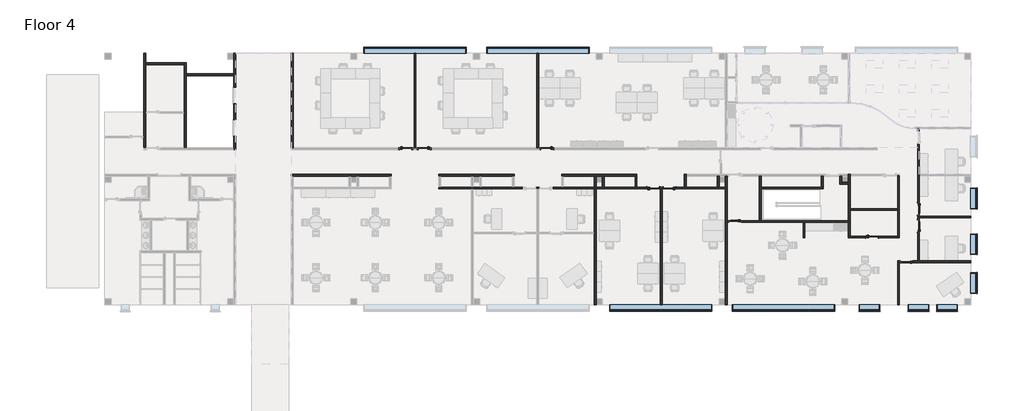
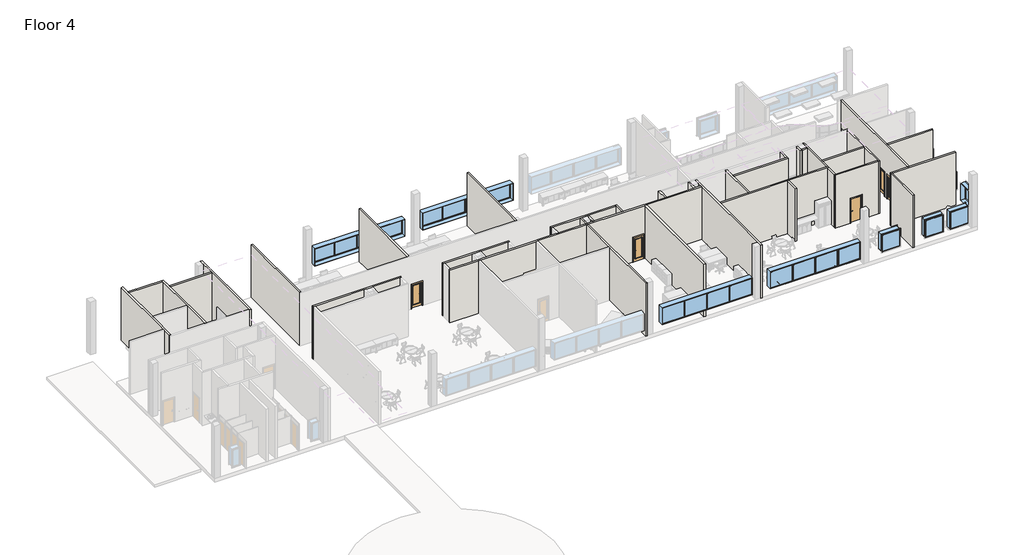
# One storey, part 2 of 6: 36 walls, 10 doors, 10 windows.
"""IFC4 building model written with IfcOpenShell, lengths in millimetres."""

from ifc_helpers import new_model, si_unit, frame, origin, place, context, project, spatial, polyline, outline, extrude, faceted_brep, transform, mapped, element, save
from components import door_36f17018, door_a8315dbd, door_4cfbdd5f, door_4a7c4c71, door_b5f71497, door_dac99271, window_casement_multi_sash_horizontal_25_x_5ft_0e5d08e3, window_45f0c9e0

model = new_model("IFC4")

# Units and contexts
model_context = context("Model", 3, world=origin())
ifc_project = project(units=[si_unit("LENGTHUNIT", "METRE", prefix="MILLI")], contexts=[model_context])

# Site, building, storey
site = spatial("IfcSite", under=ifc_project)
building = spatial("IfcBuilding", under=site)
storey = spatial("IfcBuildingStorey", under=building, Name="Floor 4", Elevation=14935.2)

# Doors
placement = place(None, origin())
door_shape = door_36f17018(model_context)
element("IfcDoor", 1, ObjectType="Door-Passage-Single-Flush : 36\" x 84\"", at=placement, inside=storey, context=model_context, shape_type="MappedRepresentation", body=[
    mapped(door_shape, transform((29954.5692024, 50253.111889, 14935.2), x_axis=(-1.0, 0.0, 0.0), y_axis=(0.0, -1.0, 0.0), z_axis=(0.0, 0.0, 1.0))),
])
door_2_shape = door_a8315dbd(model_context)
element("IfcDoor", 2, ObjectType="Door-Passage-Single-Flush : 36\" x 84\"", at=placement, inside=storey, context=model_context, shape_type="MappedRepresentation", body=[
    mapped(door_2_shape, transform((54154.4192024, 43674.511889, 14935.2), x_axis=(1.0, 0.0, 0.0), y_axis=(0.0, 1.0, 0.0), z_axis=(0.0, 0.0, 1.0))),
])
door_3_shape = door_4cfbdd5f(model_context)
element("IfcDoor", 3, ObjectType="Door-Passage-Single-Full_Lite : 36\" x 84\"", at=placement, inside=storey, context=model_context, shape_type="MappedRepresentation", body=[
    mapped(door_3_shape, transform((37853.9692024, 47338.461889, 14935.2), x_axis=(1.0, 0.0, 0.0), y_axis=(0.0, 1.0, 0.0), z_axis=(0.0, 0.0, 1.0))),
])
element("IfcDoor", 4, ObjectType="Door-Passage-Single-Full_Lite : 36\" x 84\"", at=placement, inside=storey, context=model_context, shape_type="MappedRepresentation", body=[
    mapped(door_3_shape, transform((43943.6192024, 44830.211889, 14935.2), x_axis=(-1.0, 0.0, 0.0), y_axis=(0.0, -1.0, 0.0), z_axis=(0.0, 0.0, 1.0))),
])
element("IfcDoor", 5, ObjectType="Door-Passage-Single-Full_Lite : 36\" x 84\"", at=placement, inside=storey, context=model_context, shape_type="MappedRepresentation", body=[
    mapped(door_3_shape, transform((20810.5692024, 50253.111889, 14935.2), x_axis=(-1.0, 0.0, 0.0), y_axis=(0.0, -1.0, 0.0), z_axis=(0.0, 0.0, 1.0))),
])
door_4_shape = door_4a7c4c71(model_context)
element("IfcDoor", 6, ObjectType="Door-Passage-Single-Full_Lite : 36\" x 84\"", at=placement, inside=storey, context=model_context, shape_type="MappedRepresentation", body=[
    mapped(door_4_shape, transform((39073.1692024, 47338.461889, 14935.2), x_axis=(-1.0, 0.0, 0.0), y_axis=(0.0, -1.0, 0.0), z_axis=(0.0, 0.0, 1.0))),
])
element("IfcDoor", 7, ObjectType="Door-Passage-Single-Full_Lite : 36\" x 84\"", at=placement, inside=storey, context=model_context, shape_type="MappedRepresentation", body=[
    mapped(door_4_shape, transform((19438.9692024, 50253.111889, 14935.2), x_axis=(1.0, 0.0, 0.0), y_axis=(0.0, 1.0, 0.0), z_axis=(0.0, 0.0, 1.0))),
])
door_5_shape = door_b5f71497(model_context)
element("IfcDoor", 8, ObjectType="Door-Passage-Single-Full_Lite : 36\" x 84\"", at=placement, inside=storey, context=model_context, shape_type="MappedRepresentation", body=[
    mapped(door_5_shape, transform((57608.8192024, 44497.8952223, 14935.2), x_axis=(0.0, 1.0, 0.0), y_axis=(-1.0, 0.0, 0.0), z_axis=(0.0, 0.0, 1.0))),
])
door_6_shape = door_dac99271(model_context)
element("IfcDoor", 9, ObjectType="Door-Passage-Single-Full_Lite : 36\" x 84\"", at=placement, inside=storey, context=model_context, shape_type="MappedRepresentation", body=[
    mapped(door_6_shape, transform((57608.8192024, 45767.8952223, 14935.2), x_axis=(0.0, -1.0, 0.0), y_axis=(1.0, 0.0, 0.0), z_axis=(0.0, 0.0, 1.0))),
])
element("IfcDoor", 10, ObjectType="Door-Passage-Single-Full_Lite : 36\" x 84\"", at=placement, inside=storey, context=model_context, shape_type="MappedRepresentation", body=[
    mapped(door_6_shape, transform((56719.8192024, 41845.711889, 14935.2), x_axis=(-1.0, 0.0, 0.0), y_axis=(0.0, -1.0, 0.0), z_axis=(0.0, 0.0, 1.0))),
])

# Walls
element("IfcWall", 11, ObjectType="Interior - 4 7/8\" Partition (1-hr)", at=placement, inside=storey, context=model_context, shape_type="Brep", body=[
    faceted_brep([(61502.9567024, 41901.274389, 19659.6), (57677.0817024, 41901.274389, 19659.6), (57553.2567024, 41901.274389, 19659.6), (56048.3067024, 41901.274389, 19659.6), (56048.3067024, 41777.449389, 19659.6), (56172.1317024, 41777.449389, 19659.6), (61502.9567024, 41777.449389, 19659.6), (56048.3067024, 41777.449389, 14935.2), (56172.1317024, 41777.449389, 14935.2), (56211.8192024, 41777.449389, 14935.2), (56211.8192024, 41777.449389, 17170.4), (57227.8192024, 41777.449389, 17170.4), (57227.8192024, 41777.449389, 14935.2), (61502.9567024, 41777.449389, 14935.2), (56211.8192024, 41901.274389, 17170.4), (56211.8192024, 41901.274389, 14935.2), (56048.3067024, 41901.274389, 14935.2), (61502.9567024, 41901.274389, 14935.2), (57677.0817024, 41901.274389, 14935.2), (57553.2567024, 41901.274389, 14935.2), (57227.8192024, 41901.274389, 14935.2), (57227.8192024, 41901.274389, 17170.4)], [[[0, 1, 2, 3, 4, 5, 6]], [[7, 8, 9, 10, 11, 12, 13, 6, 5, 4]], [[14, 15, 16, 3, 2, 1, 0, 17, 18, 19, 20, 21]], [[16, 15, 9, 8, 7]], [[20, 19, 18, 17, 13, 12]], [[3, 16, 7, 4]], [[17, 0, 6, 13]], [[10, 9, 15, 14]], [[11, 10, 14, 21]], [[12, 11, 21, 20]]]),
])
element("IfcWall", 12, ObjectType="Interior - 4 7/8\" Partition (1-hr)", at=placement, inside=storey, context=model_context, shape_type="Brep", body=[
    faceted_brep([(57677.0817024, 41901.274389, 19659.6), (57677.0817024, 45096.3827223, 19659.6), (57677.0817024, 45220.2077223, 19659.6), (57677.0817024, 48235.399389, 19659.6), (57677.0817024, 48359.224389, 19659.6), (57677.0817024, 51734.249389, 19659.6), (57553.2567024, 51734.249389, 19659.6), (57553.2567024, 41901.274389, 19659.6), (57553.2567024, 45259.8952223, 14935.2), (57553.2567024, 45005.8952223, 14935.2), (57553.2567024, 45005.8952223, 17170.4), (57553.2567024, 43989.8952223, 17170.4), (57553.2567024, 43989.8952223, 14935.2), (57553.2567024, 41901.274389, 14935.2), (57553.2567024, 51734.249389, 14935.2), (57553.2567024, 51592.961889, 14935.2), (57553.2567024, 51592.961889, 17170.4), (57553.2567024, 50576.961889, 17170.4), (57553.2567024, 50576.961889, 14935.2), (57553.2567024, 46275.8952223, 14935.2), (57553.2567024, 46275.8952223, 17170.4), (57553.2567024, 45259.8952223, 17170.4), (57677.0817024, 45005.8952223, 17170.4), (57677.0817024, 45005.8952223, 14935.2), (57677.0817024, 45096.3827223, 14935.2), (57677.0817024, 45220.2077223, 14935.2), (57677.0817024, 45259.8952223, 14935.2), (57677.0817024, 45259.8952223, 17170.4), (57677.0817024, 46275.8952223, 17170.4), (57677.0817024, 46275.8952223, 14935.2), (57677.0817024, 48235.399389, 14935.2), (57677.0817024, 48359.224389, 14935.2), (57677.0817024, 50576.961889, 14935.2), (57677.0817024, 50576.961889, 17170.4), (57677.0817024, 51592.961889, 17170.4), (57677.0817024, 51592.961889, 14935.2), (57677.0817024, 51734.249389, 14935.2), (57677.0817024, 41901.274389, 14935.2), (57677.0817024, 43989.8952223, 14935.2), (57677.0817024, 43989.8952223, 17170.4)], [[[0, 1, 2, 3, 4, 5, 6, 7]], [[8, 9, 10, 11, 12, 13, 7, 6, 14, 15, 16, 17, 18, 19, 20, 21]], [[22, 23, 24, 25, 26, 27, 28, 29, 30, 31, 32, 33, 34, 35, 36, 5, 4, 3, 2, 1, 0, 37, 38, 39]], [[36, 35, 15, 14]], [[26, 25, 24, 23, 9, 8]], [[19, 18, 32, 31, 30, 29]], [[38, 37, 13, 12]], [[37, 0, 7, 13]], [[5, 36, 14, 6]], [[16, 15, 35, 34]], [[17, 16, 34, 33]], [[18, 17, 33, 32]], [[27, 26, 8, 21]], [[28, 27, 21, 20]], [[29, 28, 20, 19]], [[10, 9, 23, 22]], [[11, 10, 22, 39]], [[12, 11, 39, 38]]]),
])
element("IfcWall", 13, ObjectType="Interior - 4 7/8\" Partition (1-hr)", at=placement, inside=storey, context=model_context, shape_type="SweptSolid", body=[
    extrude(outline(polyline([(57677.0817024, 45220.2077223), (61502.9567024, 45220.2077223), (61502.9567024, 45096.3827223), (57677.0817024, 45096.3827223), (57677.0817024, 45220.2077223)])), frame((0.0, 0.0, 14935.2), z_axis=(0.0, 0.0, 1.0), x_axis=(1.0, 0.0, 0.0)), (0.0, 0.0, 1.0), 4724.4),
])
element("IfcWall", 14, ObjectType="Interior - 4 7/8\" Partition (1-hr)", at=placement, inside=storey, context=model_context, shape_type="Brep", body=[
    faceted_brep([(56048.3067024, 48229.049389, 14935.2), (56048.3067024, 45800.174389, 14935.2), (56048.3067024, 45676.349389, 14935.2), (56048.3067024, 43742.774389, 14935.2), (56048.3067024, 43618.949389, 14935.2), (56048.3067024, 43618.949389, 19659.6), (56048.3067024, 43742.774389, 19659.6), (56048.3067024, 45676.349389, 19659.6), (56048.3067024, 45800.174389, 19659.6), (56048.3067024, 48229.049389, 19659.6), (56172.1317024, 48229.049389, 14935.2), (56172.1317024, 48229.049389, 19659.6), (56172.1317024, 43618.949389, 19659.6), (56172.1317024, 43618.949389, 14935.2)], [[[0, 1, 2, 3, 4, 5, 6, 7, 8, 9]], [[10, 11, 12, 13]], [[4, 3, 2, 1, 0, 10, 13]], [[9, 8, 7, 6, 5, 12, 11]], [[5, 4, 13, 12]], [[0, 9, 11, 10]]]),
])
element("IfcWall", 15, ObjectType="Interior - 4 7/8\" Partition (1-hr)", at=placement, inside=storey, context=model_context, shape_type="Brep", body=[
    faceted_brep([(56048.3067024, 43742.774389, 19659.6), (52508.1817024, 43742.774389, 19659.6), (52384.3567024, 43742.774389, 19659.6), (52384.3567024, 43618.949389, 19659.6), (56048.3067024, 43618.949389, 19659.6), (54662.4192024, 43618.949389, 17170.4), (54662.4192024, 43618.949389, 14935.2), (56048.3067024, 43618.949389, 14935.2), (52384.3567024, 43618.949389, 14935.2), (53646.4192024, 43618.949389, 14935.2), (53646.4192024, 43618.949389, 17170.4), (56048.3067024, 43742.774389, 14935.2), (54662.4192024, 43742.774389, 14935.2), (54662.4192024, 43742.774389, 17170.4), (53646.4192024, 43742.774389, 17170.4), (53646.4192024, 43742.774389, 14935.2), (52508.1817024, 43742.774389, 14935.2), (52384.3567024, 43742.774389, 14935.2)], [[[0, 1, 2, 3, 4]], [[5, 6, 7, 4, 3, 8, 9, 10]], [[11, 12, 13, 14, 15, 16, 17, 2, 1, 0]], [[7, 6, 12, 11]], [[9, 8, 17, 16, 15]], [[11, 0, 4, 7]], [[2, 17, 8, 3]], [[13, 12, 6, 5]], [[14, 13, 5, 10]], [[15, 14, 10, 9]]]),
])
element("IfcWall", 16, ObjectType="Interior - 4 7/8\" Partition (1-hr)", at=placement, inside=storey, context=model_context, shape_type="SweptSolid", body=[
    extrude(outline(polyline([(52508.1817024, 44766.711889), (52508.1817024, 43742.774389), (52384.3567024, 43742.774389), (52384.3567024, 44766.711889), (52508.1817024, 44766.711889)])), frame((0.0, 0.0, 14935.2), z_axis=(0.0, 0.0, 1.0), x_axis=(1.0, 0.0, 0.0)), (0.0, 0.0, 1.0), 4724.4),
])
element("IfcWall", 17, ObjectType="Interior - 4 7/8\" Partition (1-hr)", at=placement, inside=storey, context=model_context, shape_type="SweptSolid", body=[
    extrude(outline(polyline([(49012.5067024, 43617.361889), (49012.5067024, 44766.711889), (49136.3317024, 44766.711889), (49136.3317024, 43617.361889), (49012.5067024, 43617.361889)])), frame((0.0, 0.0, 14935.2), z_axis=(0.0, 0.0, 1.0), x_axis=(1.0, 0.0, 0.0)), (0.0, 0.0, 1.0), 4724.4),
])
element("IfcWall", 18, ObjectType="Interior - 4 7/8\" Partition (1-hr)", at=placement, inside=storey, context=model_context, shape_type="SweptSolid", body=[
    extrude(outline(polyline([(52509.7692024, 45800.174389), (56048.3067024, 45800.174389), (56048.3067024, 45676.349389), (52509.7692024, 45676.349389), (52509.7692024, 45800.174389)])), frame((0.0, 0.0, 14935.2), z_axis=(0.0, 0.0, 1.0), x_axis=(1.0, 0.0, 0.0)), (0.0, 0.0, 1.0), 4724.4),
])
element("IfcWall", 19, ObjectType="Interior - 4 7/8\" Partition (1-hr)", at=placement, inside=storey, context=model_context, shape_type="SweptSolid", body=[
    extrude(outline(polyline([(56048.3067024, 38618.324389), (56048.3067024, 41777.449389), (56172.1317024, 41777.449389), (56172.1317024, 38618.324389), (56048.3067024, 38618.324389)])), frame((0.0, 0.0, 14935.2), z_axis=(0.0, 0.0, 1.0), x_axis=(1.0, 0.0, 0.0)), (0.0, 0.0, 1.0), 4724.4),
])
element("IfcWall", 20, ObjectType="Interior - 5 1/2\" Partition (1-hr)", at=placement, inside=storey, context=model_context, shape_type="Brep", body=[
    faceted_brep([(6637.3692024, 53605.911889, 17094.2), (6637.3692024, 53605.911889, 14935.2), (6637.3692024, 52399.411889, 14935.2), (6637.3692024, 52399.411889, 17094.2), (6637.3692024, 51167.511889, 17094.2), (6637.3692024, 51167.511889, 14935.2), (6637.3692024, 50329.311889, 14935.2), (6637.3692024, 50189.611889, 14935.2), (6637.3692024, 50189.611889, 19659.6), (6637.3692024, 50329.311889, 19659.6), (6637.3692024, 55676.011889, 19659.6), (6637.3692024, 55815.711889, 19659.6), (6637.3692024, 57366.699389, 19659.6), (6637.3692024, 57366.699389, 14935.2), (6637.3692024, 55815.711889, 14935.2), (6637.3692024, 55676.011889, 14935.2), (6637.3692024, 54837.811889, 14935.2), (6637.3692024, 54837.811889, 17094.2), (6777.0692024, 52399.411889, 14935.2), (6777.0692024, 53605.911889, 14935.2), (6777.0692024, 53605.911889, 17094.2), (6777.0692024, 54837.811889, 17094.2), (6777.0692024, 54837.811889, 14935.2), (6777.0692024, 57366.699389, 14935.2), (6777.0692024, 57366.699389, 19659.6), (6777.0692024, 50189.611889, 19659.6), (6777.0692024, 50189.611889, 14935.2), (6777.0692024, 51167.511889, 14935.2), (6777.0692024, 51167.511889, 17094.2), (6777.0692024, 52399.411889, 17094.2)], [[[0, 1, 2, 3, 4, 5, 6, 7, 8, 9, 10, 11, 12, 13, 14, 15, 16, 17]], [[18, 19, 20, 21, 22, 23, 24, 25, 26, 27, 28, 29]], [[7, 6, 5, 27, 26]], [[2, 1, 19, 18]], [[16, 15, 14, 13, 23, 22]], [[12, 11, 10, 9, 8, 25, 24]], [[8, 7, 26, 25]], [[13, 12, 24, 23]], [[28, 27, 5, 4]], [[29, 28, 4, 3]], [[18, 29, 3, 2]], [[20, 19, 1, 0]], [[21, 20, 0, 17]], [[22, 21, 17, 16]]]),
])
element("IfcWall", 21, ObjectType="Interior - 5 1/2\" Partition (1-hr)", at=placement, inside=storey, context=model_context, shape_type="Brep", body=[
    faceted_brep([(77.8192024, 50329.311889, 14935.2), (77.8192024, 52882.011889, 14935.2), (77.8192024, 53021.711889, 14935.2), (77.8192024, 56514.211889, 14935.2), (77.8192024, 56653.911889, 14935.2), (77.8192024, 57366.699389, 14935.2), (77.8192024, 57366.699389, 19659.6), (77.8192024, 56653.911889, 19659.6), (77.8192024, 56514.211889, 19659.6), (77.8192024, 53021.711889, 19659.6), (77.8192024, 52882.011889, 19659.6), (77.8192024, 50329.311889, 19659.6), (-61.8807976, 50329.311889, 14935.2), (-61.8807976, 50329.311889, 19659.6), (-61.8807976, 51053.211889, 19659.6), (-61.8807976, 51192.911889, 19659.6), (-61.8807976, 57366.699389, 19659.6), (-61.8807976, 57366.699389, 14935.2), (-61.8807976, 51192.911889, 14935.2), (-61.8807976, 51053.211889, 14935.2)], [[[0, 1, 2, 3, 4, 5, 6, 7, 8, 9, 10, 11]], [[12, 13, 14, 15, 16, 17, 18, 19]], [[5, 4, 3, 2, 1, 0, 12, 19, 18, 17]], [[11, 10, 9, 8, 7, 6, 16, 15, 14, 13]], [[0, 11, 13, 12]], [[6, 5, 17, 16]]]),
])
element("IfcWall", 22, ObjectType="Interior - 5 1/2\" Partition (1-hr)", at=placement, inside=storey, context=model_context, shape_type="Brep", body=[
    faceted_brep([(3094.0692024, 50329.311889, 14935.2), (3094.0692024, 55676.011889, 14935.2), (3094.0692024, 55815.711889, 14935.2), (3094.0692024, 56653.911889, 14935.2), (3094.0692024, 56653.911889, 19659.6), (3094.0692024, 55815.711889, 19659.6), (3094.0692024, 55676.011889, 19659.6), (3094.0692024, 50329.311889, 19659.6), (2954.3692024, 50329.311889, 14935.2), (2954.3692024, 50329.311889, 19659.6), (2954.3692024, 52882.011889, 19659.6), (2954.3692024, 53021.711889, 19659.6), (2954.3692024, 56514.211889, 19659.6), (2954.3692024, 56653.911889, 19659.6), (2954.3692024, 56653.911889, 14935.2), (2954.3692024, 56514.211889, 14935.2), (2954.3692024, 53021.711889, 14935.2), (2954.3692024, 52882.011889, 14935.2)], [[[0, 1, 2, 3, 4, 5, 6, 7]], [[8, 9, 10, 11, 12, 13, 14, 15, 16, 17]], [[3, 2, 1, 0, 8, 17, 16, 15, 14]], [[7, 6, 5, 4, 13, 12, 11, 10, 9]], [[4, 3, 14, 13]], [[0, 7, 9, 8]]]),
])
element("IfcWall", 23, ObjectType="Interior - 5 1/2\" Partition (1-hr)", at=placement, inside=storey, context=model_context, shape_type="SweptSolid", body=[
    extrude(outline(polyline([(77.8192024, 56653.911889), (2954.3692024, 56653.911889), (2954.3692024, 56514.211889), (77.8192024, 56514.211889), (77.8192024, 56653.911889)])), frame((0.0, 0.0, 14935.2), z_axis=(0.0, 0.0, 1.0), x_axis=(1.0, 0.0, 0.0)), (0.0, 0.0, 1.0), 4724.4),
])
element("IfcWall", 24, ObjectType="Interior - 5 1/2\" Partition (1-hr)", at=placement, inside=storey, context=model_context, shape_type="SweptSolid", body=[
    extrude(outline(polyline([(6637.3692024, 55676.011889), (3094.0692024, 55676.011889), (3094.0692024, 55815.711889), (6637.3692024, 55815.711889), (6637.3692024, 55676.011889)])), frame((0.0, 0.0, 14935.2), z_axis=(0.0, 0.0, 1.0), x_axis=(1.0, 0.0, 0.0)), (0.0, 0.0, 1.0), 4724.4),
])
element("IfcWall", 25, ObjectType="Interior - 5 1/2\" Partition (1-hr)", at=placement, inside=storey, context=model_context, shape_type="Brep", body=[
    faceted_brep([(10910.9192024, 48221.111889, 14935.2), (11050.6192024, 48221.111889, 14935.2), (15184.4692024, 48221.111889, 14935.2), (15324.1692024, 48221.111889, 14935.2), (15781.3692024, 48221.111889, 14935.2), (15921.0692024, 48221.111889, 14935.2), (18219.7692024, 48221.111889, 14935.2), (18359.4692024, 48221.111889, 14935.2), (18359.4692024, 48221.111889, 19659.6), (18219.7692024, 48221.111889, 19659.6), (15921.0692024, 48221.111889, 19659.6), (15781.3692024, 48221.111889, 19659.6), (15324.1692024, 48221.111889, 19659.6), (15184.4692024, 48221.111889, 19659.6), (11050.6192024, 48221.111889, 19659.6), (10910.9192024, 48221.111889, 19659.6), (10910.9192024, 48360.811889, 14935.2), (10910.9192024, 48360.811889, 19659.6), (18359.4692024, 48360.811889, 19659.6), (18359.4692024, 48360.811889, 14935.2)], [[[0, 1, 2, 3, 4, 5, 6, 7, 8, 9, 10, 11, 12, 13, 14, 15]], [[16, 17, 18, 19]], [[7, 6, 5, 4, 3, 2, 1, 0, 16, 19]], [[15, 14, 13, 12, 11, 10, 9, 8, 18, 17]], [[0, 15, 17, 16]], [[8, 7, 19, 18]]]),
])
element("IfcWall", 26, ObjectType="Interior - 5 1/2\" Partition (1-hr)", at=placement, inside=storey, context=model_context, shape_type="SweptSolid", body=[
    extrude(outline(polyline([(11050.6192024, 57366.699389), (11050.6192024, 50329.311889), (10910.9192024, 50329.311889), (10910.9192024, 57366.699389), (11050.6192024, 57366.699389)])), frame((0.0, 0.0, 14935.2), z_axis=(0.0, 0.0, 1.0), x_axis=(1.0, 0.0, 0.0)), (0.0, 0.0, 1.0), 4724.4),
])
element("IfcWall", 27, ObjectType="Interior - 5 1/2\" Partition (1-hr)", at=placement, inside=storey, context=model_context, shape_type="SweptSolid", body=[
    extrude(outline(polyline([(50382.5192024, 47401.961889), (50382.5192024, 48221.111889), (50522.2192024, 48221.111889), (50522.2192024, 47401.961889), (50382.5192024, 47401.961889)])), frame((0.0, 0.0, 14935.2), z_axis=(0.0, 0.0, 1.0), x_axis=(1.0, 0.0, 0.0)), (0.0, 0.0, 1.0), 4724.4),
])
element("IfcWall", 28, ObjectType="Interior - 5 1/2\" Partition (1-hr)", at=placement, inside=storey, context=model_context, shape_type="Brep", body=[
    faceted_brep([(51760.4692024, 48221.111889, 14935.2), (51760.4692024, 47624.211889, 14935.2), (51760.4692024, 47624.211889, 19659.6), (51760.4692024, 48221.111889, 19659.6), (51900.1692024, 48221.111889, 14935.2), (51900.1692024, 48221.111889, 19659.6), (51900.1692024, 47763.911889, 19659.6), (51900.1692024, 47624.211889, 19659.6), (51900.1692024, 47624.211889, 14935.2), (51900.1692024, 47763.911889, 14935.2)], [[[0, 1, 2, 3]], [[4, 5, 6, 7, 8, 9]], [[1, 0, 4, 9, 8]], [[3, 2, 7, 6, 5]], [[2, 1, 8, 7]], [[0, 3, 5, 4]]]),
])
element("IfcWall", 29, ObjectType="Interior - 5 1/2\" Partition (1-hr)", at=placement, inside=storey, context=model_context, shape_type="Brep", body=[
    faceted_brep([(52370.0692024, 47763.911889, 14935.2), (52357.3692024, 47763.911889, 14935.2), (51900.1692024, 47763.911889, 14935.2), (51900.1692024, 47763.911889, 19659.6), (52357.3692024, 47763.911889, 19659.6), (52370.0692024, 47763.911889, 19659.6), (52370.0692024, 47624.211889, 14935.2), (52370.0692024, 47624.211889, 19659.6), (51900.1692024, 47624.211889, 19659.6), (51900.1692024, 47624.211889, 14935.2)], [[[0, 1, 2, 3, 4, 5]], [[6, 7, 8, 9]], [[2, 1, 0, 6, 9]], [[5, 4, 3, 8, 7]], [[3, 2, 9, 8]], [[0, 5, 7, 6]]]),
])
element("IfcWall", 30, ObjectType="Interior - 5 1/2\" Partition (1-hr)", at=placement, inside=storey, context=model_context, shape_type="Brep", body=[
    faceted_brep([(45759.7192024, 48221.111889, 14935.2), (45759.7192024, 44906.411889, 14935.2), (45759.7192024, 44906.411889, 19659.6), (45759.7192024, 48221.111889, 19659.6), (45899.4192024, 48221.111889, 14935.2), (45899.4192024, 48221.111889, 19659.6), (45899.4192024, 47401.961889, 19659.6), (45899.4192024, 47262.261889, 19659.6), (45899.4192024, 44906.411889, 19659.6), (45899.4192024, 44906.411889, 14935.2), (45899.4192024, 47262.261889, 14935.2), (45899.4192024, 47401.961889, 14935.2)], [[[0, 1, 2, 3]], [[4, 5, 6, 7, 8, 9, 10, 11]], [[1, 0, 4, 11, 10, 9]], [[3, 2, 8, 7, 6, 5]], [[2, 1, 9, 8]], [[0, 3, 5, 4]]]),
])
element("IfcWall", 31, ObjectType="Interior - 5 1/2\" Partition (1-hr)", at=placement, inside=storey, context=model_context, shape_type="Brep", body=[
    faceted_brep([(43353.0692024, 44766.711889, 19659.6), (49012.5067024, 44766.711889, 19659.6), (49136.3317024, 44766.711889, 19659.6), (52384.3567024, 44766.711889, 19659.6), (52508.1817024, 44766.711889, 19659.6), (52509.7692024, 44766.711889, 19659.6), (52509.7692024, 44906.411889, 19659.6), (52370.0692024, 44906.411889, 19659.6), (45899.4192024, 44906.411889, 19659.6), (45759.7192024, 44906.411889, 19659.6), (43353.0692024, 44906.411889, 19659.6), (43435.6192024, 44906.411889, 17170.4), (43435.6192024, 44906.411889, 14935.2), (43353.0692024, 44906.411889, 14935.2), (52509.7692024, 44906.411889, 14935.2), (52370.0692024, 44906.411889, 14935.2), (45899.4192024, 44906.411889, 14935.2), (45759.7192024, 44906.411889, 14935.2), (44451.6192024, 44906.411889, 14935.2), (44451.6192024, 44906.411889, 17170.4), (43353.0692024, 44766.711889, 14935.2), (43435.6192024, 44766.711889, 14935.2), (43435.6192024, 44766.711889, 17170.4), (44451.6192024, 44766.711889, 17170.4), (44451.6192024, 44766.711889, 14935.2), (49012.5067024, 44766.711889, 14935.2), (49136.3317024, 44766.711889, 14935.2), (52384.3567024, 44766.711889, 14935.2), (52508.1817024, 44766.711889, 14935.2), (52509.7692024, 44766.711889, 14935.2)], [[[0, 1, 2, 3, 4, 5, 6, 7, 8, 9, 10]], [[11, 12, 13, 10, 9, 8, 7, 6, 14, 15, 16, 17, 18, 19]], [[20, 21, 22, 23, 24, 25, 26, 27, 28, 29, 5, 4, 3, 2, 1, 0]], [[13, 12, 21, 20]], [[18, 17, 16, 15, 14, 29, 28, 27, 26, 25, 24]], [[20, 0, 10, 13]], [[5, 29, 14, 6]], [[22, 21, 12, 11]], [[23, 22, 11, 19]], [[24, 23, 19, 18]]]),
])
element("IfcWall", 32, ObjectType="Interior - 5 1/2\" Partition (1-hr)", at=placement, inside=storey, context=model_context, shape_type="Brep", body=[
    faceted_brep([(45899.4192024, 47262.261889, 14935.2), (50522.2192024, 47262.261889, 14935.2), (50522.2192024, 47262.261889, 19659.6), (45899.4192024, 47262.261889, 19659.6), (45899.4192024, 47401.961889, 14935.2), (45899.4192024, 47401.961889, 19659.6), (50382.5192024, 47401.961889, 19659.6), (50522.2192024, 47401.961889, 19659.6), (50522.2192024, 47401.961889, 14935.2), (50382.5192024, 47401.961889, 14935.2)], [[[0, 1, 2, 3]], [[4, 5, 6, 7, 8, 9]], [[1, 0, 4, 9, 8]], [[3, 2, 7, 6, 5]], [[2, 1, 8, 7]], [[0, 3, 5, 4]]]),
])
element("IfcWall", 33, ObjectType="Interior - 5 1/2\" Partition (1-hr)", at=placement, inside=storey, context=model_context, shape_type="Brep", body=[
    faceted_brep([(43213.3692024, 48221.111889, 14935.2), (43213.3692024, 47763.911889, 14935.2), (43213.3692024, 47401.961889, 14935.2), (43213.3692024, 47262.261889, 14935.2), (43213.3692024, 39077.111889, 14935.2), (43213.3692024, 38619.911889, 14935.2), (43213.3692024, 38618.324389, 14935.2), (43213.3692024, 38618.324389, 19659.6), (43213.3692024, 38619.911889, 19659.6), (43213.3692024, 39077.111889, 19659.6), (43213.3692024, 47262.261889, 19659.6), (43213.3692024, 47401.961889, 19659.6), (43213.3692024, 47763.911889, 19659.6), (43213.3692024, 48221.111889, 19659.6), (43353.0692024, 48221.111889, 14935.2), (43353.0692024, 48221.111889, 19659.6), (43353.0692024, 44906.411889, 19659.6), (43353.0692024, 44766.711889, 19659.6), (43353.0692024, 38618.324389, 19659.6), (43353.0692024, 38618.324389, 14935.2), (43353.0692024, 44766.711889, 14935.2), (43353.0692024, 44906.411889, 14935.2)], [[[0, 1, 2, 3, 4, 5, 6, 7, 8, 9, 10, 11, 12, 13]], [[14, 15, 16, 17, 18, 19, 20, 21]], [[6, 5, 4, 3, 2, 1, 0, 14, 21, 20, 19]], [[13, 12, 11, 10, 9, 8, 7, 18, 17, 16, 15]], [[0, 13, 15, 14]], [[7, 6, 19, 18]]]),
])
element("IfcWall", 34, ObjectType="Interior - 5 1/2\" Partition (1-hr)", at=placement, inside=storey, context=model_context, shape_type="Brep", body=[
    faceted_brep([(43213.3692024, 47401.961889, 19659.6), (42756.1692024, 47401.961889, 19659.6), (42616.4692024, 47401.961889, 19659.6), (40317.7692024, 47401.961889, 19659.6), (40178.0692024, 47401.961889, 19659.6), (36647.4692024, 47401.961889, 19659.6), (36507.7692024, 47401.961889, 19659.6), (34209.0692024, 47401.961889, 19659.6), (34069.3692024, 47401.961889, 19659.6), (33612.1692024, 47401.961889, 19659.6), (33472.4692024, 47401.961889, 19659.6), (31173.7692024, 47401.961889, 19659.6), (31034.0692024, 47401.961889, 19659.6), (27503.4692024, 47401.961889, 19659.6), (27363.7692024, 47401.961889, 19659.6), (25065.0692024, 47401.961889, 19659.6), (24925.3692024, 47401.961889, 19659.6), (24468.1692024, 47401.961889, 19659.6), (24328.4692024, 47401.961889, 19659.6), (22029.7692024, 47401.961889, 19659.6), (21890.0692024, 47401.961889, 19659.6), (21890.0692024, 47262.261889, 19659.6), (24328.4692024, 47262.261889, 19659.6), (24468.1692024, 47262.261889, 19659.6), (29198.9192024, 47262.261889, 19659.6), (29338.6192024, 47262.261889, 19659.6), (33472.4692024, 47262.261889, 19659.6), (33612.1692024, 47262.261889, 19659.6), (38393.7192024, 47262.261889, 19659.6), (38533.4192024, 47262.261889, 19659.6), (43213.3692024, 47262.261889, 19659.6), (29167.1692024, 47262.261889, 17170.4), (29167.1692024, 47262.261889, 14935.2), (29198.9192024, 47262.261889, 14935.2), (29338.6192024, 47262.261889, 14935.2), (29370.3692024, 47262.261889, 14935.2), (29370.3692024, 47262.261889, 17170.4), (30386.3692024, 47262.261889, 17170.4), (30386.3692024, 47262.261889, 14935.2), (33472.4692024, 47262.261889, 14935.2), (33612.1692024, 47262.261889, 14935.2), (37345.9692024, 47262.261889, 14935.2), (37345.9692024, 47262.261889, 17170.4), (38361.9692024, 47262.261889, 17170.4), (38361.9692024, 47262.261889, 14935.2), (38393.7192024, 47262.261889, 14935.2), (38533.4192024, 47262.261889, 14935.2), (38565.1692024, 47262.261889, 14935.2), (38565.1692024, 47262.261889, 17170.4), (39581.1692024, 47262.261889, 17170.4), (39581.1692024, 47262.261889, 14935.2), (43213.3692024, 47262.261889, 14935.2), (21890.0692024, 47262.261889, 14935.2), (24328.4692024, 47262.261889, 14935.2), (24468.1692024, 47262.261889, 14935.2), (28151.1692024, 47262.261889, 14935.2), (28151.1692024, 47262.261889, 17170.4), (29370.3692024, 47401.961889, 14935.2), (29167.1692024, 47401.961889, 14935.2), (29167.1692024, 47401.961889, 17170.4), (28151.1692024, 47401.961889, 17170.4), (28151.1692024, 47401.961889, 14935.2), (27503.4692024, 47401.961889, 14935.2), (27363.7692024, 47401.961889, 14935.2), (25065.0692024, 47401.961889, 14935.2), (24925.3692024, 47401.961889, 14935.2), (24468.1692024, 47401.961889, 14935.2), (24328.4692024, 47401.961889, 14935.2), (22029.7692024, 47401.961889, 14935.2), (21890.0692024, 47401.961889, 14935.2), (43213.3692024, 47401.961889, 14935.2), (42756.1692024, 47401.961889, 14935.2), (42616.4692024, 47401.961889, 14935.2), (40317.7692024, 47401.961889, 14935.2), (40178.0692024, 47401.961889, 14935.2), (39581.1692024, 47401.961889, 14935.2), (39581.1692024, 47401.961889, 17170.4), (38565.1692024, 47401.961889, 17170.4), (38565.1692024, 47401.961889, 14935.2), (38361.9692024, 47401.961889, 14935.2), (38361.9692024, 47401.961889, 17170.4), (37345.9692024, 47401.961889, 17170.4), (37345.9692024, 47401.961889, 14935.2), (36647.4692024, 47401.961889, 14935.2), (36507.7692024, 47401.961889, 14935.2), (34209.0692024, 47401.961889, 14935.2), (34069.3692024, 47401.961889, 14935.2), (33612.1692024, 47401.961889, 14935.2), (33472.4692024, 47401.961889, 14935.2), (31173.7692024, 47401.961889, 14935.2), (31034.0692024, 47401.961889, 14935.2), (30386.3692024, 47401.961889, 14935.2), (30386.3692024, 47401.961889, 17170.4), (29370.3692024, 47401.961889, 17170.4)], [[[0, 1, 2, 3, 4, 5, 6, 7, 8, 9, 10, 11, 12, 13, 14, 15, 16, 17, 18, 19, 20, 21, 22, 23, 24, 25, 26, 27, 28, 29, 30]], [[31, 32, 33, 34, 35, 36, 37, 38, 39, 40, 41, 42, 43, 44, 45, 46, 47, 48, 49, 50, 51, 30, 29, 28, 27, 26, 25, 24, 23, 22, 21, 52, 53, 54, 55, 56]], [[57, 58, 59, 60, 61, 62, 63, 64, 65, 66, 67, 68, 69, 20, 19, 18, 17, 16, 15, 14, 13, 12, 11, 10, 9, 8, 7, 6, 5, 4, 3, 2, 1, 0, 70, 71, 72, 73, 74, 75, 76, 77, 78, 79, 80, 81, 82, 83, 84, 85, 86, 87, 88, 89, 90, 91, 92, 93]], [[79, 78, 47, 46, 45, 44]], [[35, 34, 33, 32, 58, 57]], [[75, 74, 73, 72, 71, 70, 51, 50]], [[91, 90, 89, 88, 87, 86, 85, 84, 83, 82, 41, 40, 39, 38]], [[55, 54, 53, 52, 69, 68, 67, 66, 65, 64, 63, 62, 61]], [[70, 0, 30, 51]], [[20, 69, 52, 21]], [[80, 79, 44, 43]], [[81, 80, 43, 42]], [[82, 81, 42, 41]], [[48, 47, 78, 77]], [[49, 48, 77, 76]], [[50, 49, 76, 75]], [[36, 35, 57, 93]], [[37, 36, 93, 92]], [[38, 37, 92, 91]], [[59, 58, 32, 31]], [[60, 59, 31, 56]], [[61, 60, 56, 55]]]),
])
element("IfcWall", 35, ObjectType="Interior - 5 1/2\" Partition (1-hr)", at=placement, inside=storey, context=model_context, shape_type="Brep", body=[
    faceted_brep([(42756.1692024, 47401.961889, 14935.2), (42756.1692024, 47763.911889, 14935.2), (42756.1692024, 48221.111889, 14935.2), (42756.1692024, 48221.111889, 19659.6), (42756.1692024, 47763.911889, 19659.6), (42756.1692024, 47401.961889, 19659.6), (42616.4692024, 47401.961889, 14935.2), (42616.4692024, 47401.961889, 19659.6), (42616.4692024, 48221.111889, 19659.6), (42616.4692024, 48221.111889, 14935.2)], [[[0, 1, 2, 3, 4, 5]], [[6, 7, 8, 9]], [[2, 1, 0, 6, 9]], [[5, 4, 3, 8, 7]], [[0, 5, 7, 6]], [[3, 2, 9, 8]]]),
])
element("IfcWall", 36, ObjectType="Interior - 5 1/2\" Partition (1-hr)", at=placement, inside=storey, context=model_context, shape_type="Brep", body=[
    faceted_brep([(34209.0692024, 47401.961889, 14935.2), (34209.0692024, 48221.111889, 14935.2), (34209.0692024, 48221.111889, 19659.6), (34209.0692024, 47401.961889, 19659.6), (34069.3692024, 47401.961889, 14935.2), (34069.3692024, 47401.961889, 19659.6), (34069.3692024, 47763.911889, 19659.6), (34069.3692024, 48221.111889, 19659.6), (34069.3692024, 48221.111889, 14935.2), (34069.3692024, 47763.911889, 14935.2)], [[[0, 1, 2, 3]], [[4, 5, 6, 7, 8, 9]], [[1, 0, 4, 9, 8]], [[3, 2, 7, 6, 5]], [[0, 3, 5, 4]], [[2, 1, 8, 7]]]),
])
element("IfcWall", 37, ObjectType="Interior - 5 1/2\" Partition (1-hr)", at=placement, inside=storey, context=model_context, shape_type="Brep", body=[
    faceted_brep([(33612.1692024, 47401.961889, 14935.2), (33612.1692024, 47763.911889, 14935.2), (33612.1692024, 48221.111889, 14935.2), (33612.1692024, 48221.111889, 19659.6), (33612.1692024, 47763.911889, 19659.6), (33612.1692024, 47401.961889, 19659.6), (33472.4692024, 47401.961889, 14935.2), (33472.4692024, 47401.961889, 19659.6), (33472.4692024, 48221.111889, 19659.6), (33472.4692024, 48221.111889, 14935.2)], [[[0, 1, 2, 3, 4, 5]], [[6, 7, 8, 9]], [[2, 1, 0, 6, 9]], [[5, 4, 3, 8, 7]], [[0, 5, 7, 6]], [[3, 2, 9, 8]]]),
])
element("IfcWall", 38, ObjectType="Interior - 5 1/2\" Partition (1-hr)", at=placement, inside=storey, context=model_context, shape_type="Brep", body=[
    faceted_brep([(21890.0692024, 48221.111889, 14935.2), (22029.7692024, 48221.111889, 14935.2), (24328.4692024, 48221.111889, 14935.2), (24468.1692024, 48221.111889, 14935.2), (24925.3692024, 48221.111889, 14935.2), (25065.0692024, 48221.111889, 14935.2), (27363.7692024, 48221.111889, 14935.2), (27503.4692024, 48221.111889, 14935.2), (27503.4692024, 48221.111889, 19659.6), (27363.7692024, 48221.111889, 19659.6), (25065.0692024, 48221.111889, 19659.6), (24925.3692024, 48221.111889, 19659.6), (24468.1692024, 48221.111889, 19659.6), (24328.4692024, 48221.111889, 19659.6), (22029.7692024, 48221.111889, 19659.6), (21890.0692024, 48221.111889, 19659.6), (21890.0692024, 48360.811889, 14935.2), (21890.0692024, 48360.811889, 19659.6), (27503.4692024, 48360.811889, 19659.6), (27503.4692024, 48360.811889, 14935.2)], [[[0, 1, 2, 3, 4, 5, 6, 7, 8, 9, 10, 11, 12, 13, 14, 15]], [[16, 17, 18, 19]], [[7, 6, 5, 4, 3, 2, 1, 0, 16, 19]], [[15, 14, 13, 12, 11, 10, 9, 8, 18, 17]], [[0, 15, 17, 16]], [[8, 7, 19, 18]]]),
])
element("IfcWall", 39, ObjectType="Interior - 5 1/2\" Partition (1-hr)", at=placement, inside=storey, context=model_context, shape_type="Brep", body=[
    faceted_brep([(31034.0692024, 48221.111889, 14935.2), (31173.7692024, 48221.111889, 14935.2), (33472.4692024, 48221.111889, 14935.2), (33612.1692024, 48221.111889, 14935.2), (34069.3692024, 48221.111889, 14935.2), (34209.0692024, 48221.111889, 14935.2), (36507.7692024, 48221.111889, 14935.2), (36507.7692024, 48221.111889, 19659.6), (34209.0692024, 48221.111889, 19659.6), (34069.3692024, 48221.111889, 19659.6), (33612.1692024, 48221.111889, 19659.6), (33472.4692024, 48221.111889, 19659.6), (31173.7692024, 48221.111889, 19659.6), (31034.0692024, 48221.111889, 19659.6), (31034.0692024, 48360.811889, 14935.2), (31034.0692024, 48360.811889, 19659.6), (36507.7692024, 48360.811889, 19659.6), (36507.7692024, 48360.811889, 14935.2)], [[[0, 1, 2, 3, 4, 5, 6, 7, 8, 9, 10, 11, 12, 13]], [[14, 15, 16, 17]], [[6, 5, 4, 3, 2, 1, 0, 14, 17]], [[13, 12, 11, 10, 9, 8, 7, 16, 15]], [[0, 13, 15, 14]], [[7, 6, 17, 16]]]),
])
element("IfcWall", 40, ObjectType="Interior - 5 1/2\" Partition (1-hr)", at=placement, inside=storey, context=model_context, shape_type="Brep", body=[
    faceted_brep([(36647.4692024, 47401.961889, 14935.2), (36647.4692024, 48360.811889, 14935.2), (36647.4692024, 48360.811889, 19659.6), (36647.4692024, 47401.961889, 19659.6), (36507.7692024, 47401.961889, 14935.2), (36507.7692024, 47401.961889, 19659.6), (36507.7692024, 48221.111889, 19659.6), (36507.7692024, 48360.811889, 19659.6), (36507.7692024, 48360.811889, 14935.2), (36507.7692024, 48221.111889, 14935.2)], [[[0, 1, 2, 3]], [[4, 5, 6, 7, 8, 9]], [[1, 0, 4, 9, 8]], [[3, 2, 7, 6, 5]], [[2, 1, 8, 7]], [[0, 3, 5, 4]]]),
])
element("IfcWall", 41, ObjectType="Interior - 5 1/2\" Partition (1-hr)", at=placement, inside=storey, context=model_context, shape_type="Brep", body=[
    faceted_brep([(40317.7692024, 47401.961889, 14935.2), (40317.7692024, 48221.111889, 14935.2), (40317.7692024, 48360.811889, 14935.2), (40317.7692024, 48360.811889, 19659.6), (40317.7692024, 48221.111889, 19659.6), (40317.7692024, 47401.961889, 19659.6), (40178.0692024, 47401.961889, 14935.2), (40178.0692024, 47401.961889, 19659.6), (40178.0692024, 48360.811889, 19659.6), (40178.0692024, 48360.811889, 14935.2)], [[[0, 1, 2, 3, 4, 5]], [[6, 7, 8, 9]], [[2, 1, 0, 6, 9]], [[5, 4, 3, 8, 7]], [[3, 2, 9, 8]], [[0, 5, 7, 6]]]),
])
element("IfcWall", 42, ObjectType="Interior - 5 1/2\" Partition (1-hr)", at=placement, inside=storey, context=model_context, shape_type="Brep", body=[
    faceted_brep([(33472.4692024, 47262.261889, 14935.2), (33472.4692024, 44049.161889, 14935.2), (33472.4692024, 43909.461889, 14935.2), (33472.4692024, 38618.324389, 14935.2), (33472.4692024, 38618.324389, 19659.6), (33472.4692024, 43909.461889, 19659.6), (33472.4692024, 44049.161889, 19659.6), (33472.4692024, 47262.261889, 19659.6), (33612.1692024, 47262.261889, 14935.2), (33612.1692024, 47262.261889, 19659.6), (33612.1692024, 39077.111889, 19659.6), (33612.1692024, 38619.911889, 19659.6), (33612.1692024, 38618.324389, 19659.6), (33612.1692024, 38618.324389, 14935.2), (33612.1692024, 38619.911889, 14935.2), (33612.1692024, 39077.111889, 14935.2)], [[[0, 1, 2, 3, 4, 5, 6, 7]], [[8, 9, 10, 11, 12, 13, 14, 15]], [[3, 2, 1, 0, 8, 15, 14, 13]], [[7, 6, 5, 4, 12, 11, 10, 9]], [[0, 7, 9, 8]], [[4, 3, 13, 12]]]),
])
element("IfcWall", 43, ObjectType="Interior - 5 1/2\" Partition (1-hr)", at=placement, inside=storey, context=model_context, shape_type="Brep", body=[
    faceted_brep([(52509.7692024, 44906.411889, 14935.2), (52509.7692024, 45676.349389, 14935.2), (52509.7692024, 45800.174389, 14935.2), (52509.7692024, 48229.049389, 14935.2), (52509.7692024, 48352.874389, 14935.2), (52509.7692024, 48360.811889, 14935.2), (52509.7692024, 48360.811889, 19659.6), (52509.7692024, 48352.874389, 19659.6), (52509.7692024, 48229.049389, 19659.6), (52509.7692024, 45800.174389, 19659.6), (52509.7692024, 45676.349389, 19659.6), (52509.7692024, 44906.411889, 19659.6), (52370.0692024, 44906.411889, 14935.2), (52370.0692024, 44906.411889, 19659.6), (52370.0692024, 47624.211889, 19659.6), (52370.0692024, 47763.911889, 19659.6), (52370.0692024, 48221.111889, 19659.6), (52370.0692024, 48360.811889, 19659.6), (52370.0692024, 48360.811889, 14935.2), (52370.0692024, 48221.111889, 14935.2), (52370.0692024, 47763.911889, 14935.2), (52370.0692024, 47624.211889, 14935.2)], [[[0, 1, 2, 3, 4, 5, 6, 7, 8, 9, 10, 11]], [[12, 13, 14, 15, 16, 17, 18, 19, 20, 21]], [[5, 4, 3, 2, 1, 0, 12, 21, 20, 19, 18]], [[11, 10, 9, 8, 7, 6, 17, 16, 15, 14, 13]], [[6, 5, 18, 17]], [[0, 11, 13, 12]]]),
])
element("IfcWall", 44, ObjectType="Interior - 5 1/2\" Partition (1-hr)", at=placement, inside=storey, context=model_context, shape_type="SweptSolid", body=[
    extrude(outline(polyline([(38393.7192024, 38618.324389), (38393.7192024, 47262.261889), (38533.4192024, 47262.261889), (38533.4192024, 38618.324389), (38393.7192024, 38618.324389)])), frame((0.0, 0.0, 14935.2), z_axis=(0.0, 0.0, 1.0), x_axis=(1.0, 0.0, 0.0)), (0.0, 0.0, 1.0), 4724.4),
])
element("IfcWall", 45, ObjectType="Interior - 5 1/2\" Partition (1-hr)", at=placement, inside=storey, context=model_context, shape_type="SweptSolid", body=[
    extrude(outline(polyline([(29338.6192024, 57366.699389), (29338.6192024, 50329.311889), (29198.9192024, 50329.311889), (29198.9192024, 57366.699389), (29338.6192024, 57366.699389)])), frame((0.0, 0.0, 14935.2), z_axis=(0.0, 0.0, 1.0), x_axis=(1.0, 0.0, 0.0)), (0.0, 0.0, 1.0), 4724.4),
])
element("IfcWall", 46, ObjectType="Interior - 5 1/2\" Partition (1-hr)", at=placement, inside=storey, context=model_context, shape_type="SweptSolid", body=[
    extrude(outline(polyline([(20194.6192024, 57366.699389), (20194.6192024, 50329.311889), (20054.9192024, 50329.311889), (20054.9192024, 57366.699389), (20194.6192024, 57366.699389)])), frame((0.0, 0.0, 14935.2), z_axis=(0.0, 0.0, 1.0), x_axis=(1.0, 0.0, 0.0)), (0.0, 0.0, 1.0), 4724.4),
])

# Windows
window_casement_multi_sash_horizontal_25_x_5ft_shape = window_casement_multi_sash_horizontal_25_x_5ft_0e5d08e3(model_context)
element("IfcWindow", 47, ObjectType="Window-Casement-Multi-Sash-Horizontal : 25 x 5ft", at=placement, inside=storey, context=model_context, shape_type="MappedRepresentation", body=[
    mapped(window_casement_multi_sash_horizontal_25_x_5ft_shape, transform((29268.7692024, 57593.711889, 14935.2), x_axis=(1.0, 0.0, 0.0), y_axis=(0.0, 1.0, 0.0), z_axis=(0.0, 0.0, 1.0))),
])
element("IfcWindow", 48, ObjectType="Window-Casement-Multi-Sash-Horizontal : 25 x 5ft", at=placement, inside=storey, context=model_context, shape_type="MappedRepresentation", body=[
    mapped(window_casement_multi_sash_horizontal_25_x_5ft_shape, transform((20124.7692024, 57593.711889, 14935.2), x_axis=(1.0, 0.0, 0.0), y_axis=(0.0, 1.0, 0.0), z_axis=(0.0, 0.0, 1.0))),
])
element("IfcWindow", 49, ObjectType="Window-Casement-Multi-Sash-Horizontal : 25 x 5ft", at=placement, inside=storey, context=model_context, shape_type="MappedRepresentation", body=[
    mapped(window_casement_multi_sash_horizontal_25_x_5ft_shape, transform((38412.7692024, 38391.311889, 14935.2), x_axis=(-1.0, 0.0, 0.0), y_axis=(0.0, -1.0, 0.0), z_axis=(0.0, 0.0, 1.0))),
])
element("IfcWindow", 50, ObjectType="Window-Casement-Multi-Sash-Horizontal : 25 x 5ft", at=placement, inside=storey, context=model_context, shape_type="MappedRepresentation", body=[
    mapped(window_casement_multi_sash_horizontal_25_x_5ft_shape, transform((47556.7692024, 38391.311889, 14935.2), x_axis=(-1.0, 0.0, 0.0), y_axis=(0.0, -1.0, 0.0), z_axis=(0.0, 0.0, 1.0))),
])
window_shape = window_45f0c9e0(model_context)
element("IfcWindow", 51, ObjectType="Window-Fixed : 60\" x 60\"", at=placement, inside=storey, context=model_context, shape_type="MappedRepresentation", body=[
    mapped(window_shape, transform((61729.9692024, 40245.511889, 14935.2), x_axis=(0.0, -1.0, 0.0), y_axis=(1.0, 0.0, 0.0), z_axis=(0.0, 0.0, 1.0))),
])
element("IfcWindow", 52, ObjectType="Window-Fixed : 60\" x 60\"", at=placement, inside=storey, context=model_context, shape_type="MappedRepresentation", body=[
    mapped(window_shape, transform((61729.9692024, 43141.111889, 14935.2), x_axis=(0.0, -1.0, 0.0), y_axis=(1.0, 0.0, 0.0), z_axis=(0.0, 0.0, 1.0))),
])
element("IfcWindow", 53, ObjectType="Window-Fixed : 60\" x 60\"", at=placement, inside=storey, context=model_context, shape_type="MappedRepresentation", body=[
    mapped(window_shape, transform((61729.9692024, 46544.711889, 14935.2), x_axis=(0.0, -1.0, 0.0), y_axis=(1.0, 0.0, 0.0), z_axis=(0.0, 0.0, 1.0))),
])
element("IfcWindow", 54, ObjectType="Window-Fixed : 60\" x 60\"", at=placement, inside=storey, context=model_context, shape_type="MappedRepresentation", body=[
    mapped(window_shape, transform((53951.2192024, 38391.311889, 14935.2), x_axis=(-1.0, 0.0, 0.0), y_axis=(0.0, -1.0, 0.0), z_axis=(0.0, 0.0, 1.0))),
])
element("IfcWindow", 55, ObjectType="Window-Fixed : 60\" x 60\"", at=placement, inside=storey, context=model_context, shape_type="MappedRepresentation", body=[
    mapped(window_shape, transform((57608.8192024, 38391.311889, 14935.2), x_axis=(-1.0, 0.0, 0.0), y_axis=(0.0, -1.0, 0.0), z_axis=(0.0, 0.0, 1.0))),
])
element("IfcWindow", 56, ObjectType="Window-Fixed : 60\" x 60\"", at=placement, inside=storey, context=model_context, shape_type="MappedRepresentation", body=[
    mapped(window_shape, transform((59742.4192024, 38391.311889, 14935.2), x_axis=(-1.0, 0.0, 0.0), y_axis=(0.0, -1.0, 0.0), z_axis=(0.0, 0.0, 1.0))),
])

save(model, "model.ifc")
